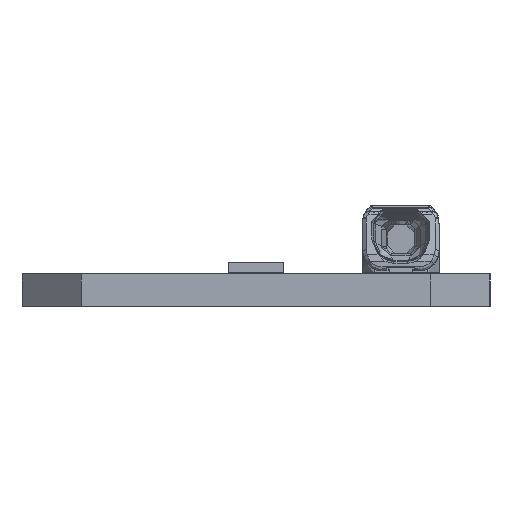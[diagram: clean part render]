
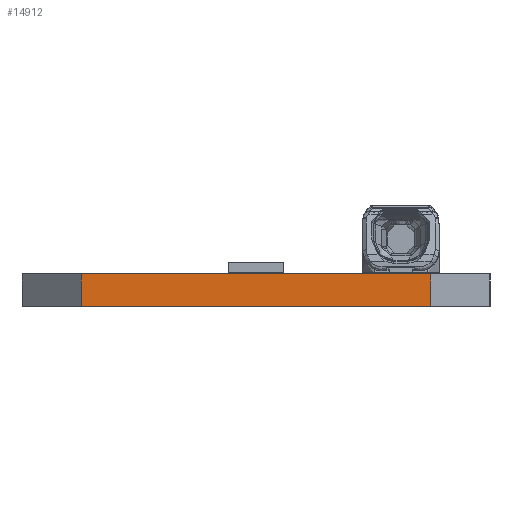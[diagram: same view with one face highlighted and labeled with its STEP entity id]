
A CAD part, left-side view. The second image highlights one B-rep face of the part: STEP entity #14912.
In plain terms, the highlighted planar face has unit normal (-1, 0, 0).
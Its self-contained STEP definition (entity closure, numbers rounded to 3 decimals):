
#340=DIRECTION('',(0.,1.,0.));
#341=VECTOR('',#340,17.6);
#342=CARTESIAN_POINT('',(-699.5,-8.8,1.65));
#343=LINE('',#342,#341);
#2565=DIRECTION('',(0.,0.,1.));
#2566=VECTOR('',#2565,1.65);
#2567=CARTESIAN_POINT('',(-699.5,-8.8,0.));
#2568=LINE('',#2567,#2566);
#6636=DIRECTION('',(0.,1.,0.));
#6637=VECTOR('',#6636,17.6);
#6638=CARTESIAN_POINT('',(-699.5,-8.8,0.));
#6639=LINE('',#6638,#6637);
#6643=DIRECTION('',(0.,0.,1.));
#6644=VECTOR('',#6643,1.65);
#6645=CARTESIAN_POINT('',(-699.5,8.8,0.));
#6646=LINE('',#6645,#6644);
#7882=CARTESIAN_POINT('',(-699.5,-8.8,0.));
#7883=VERTEX_POINT('',#7882);
#7884=CARTESIAN_POINT('',(-699.5,8.8,0.));
#7885=VERTEX_POINT('',#7884);
#8110=CARTESIAN_POINT('',(-699.5,8.8,1.65));
#8111=VERTEX_POINT('',#8110);
#8112=CARTESIAN_POINT('',(-699.5,-8.8,1.65));
#8113=VERTEX_POINT('',#8112);
#14901=CARTESIAN_POINT('',(-699.5,0.,0.825));
#14902=DIRECTION('',(1.,0.,0.));
#14903=DIRECTION('',(0.,0.,1.));
#14904=AXIS2_PLACEMENT_3D('',#14901,#14902,#14903);
#14905=PLANE('',#14904);
#14906=ORIENTED_EDGE('',*,*,#8805,.F.);
#14907=ORIENTED_EDGE('',*,*,#13332,.T.);
#14908=ORIENTED_EDGE('',*,*,#14886,.T.);
#14909=ORIENTED_EDGE('',*,*,#8192,.F.);
#14910=EDGE_LOOP('',(#14906,#14907,#14908,#14909));
#14911=FACE_OUTER_BOUND('',#14910,.F.);
#8192=EDGE_CURVE('',#8113,#8111,#343,.T.);
#8805=EDGE_CURVE('',#7883,#8113,#2568,.T.);
#13332=EDGE_CURVE('',#7883,#7885,#6639,.T.);
#14886=EDGE_CURVE('',#7885,#8111,#6646,.T.);
#14912=ADVANCED_FACE('',(#14911),#14905,.F.);
